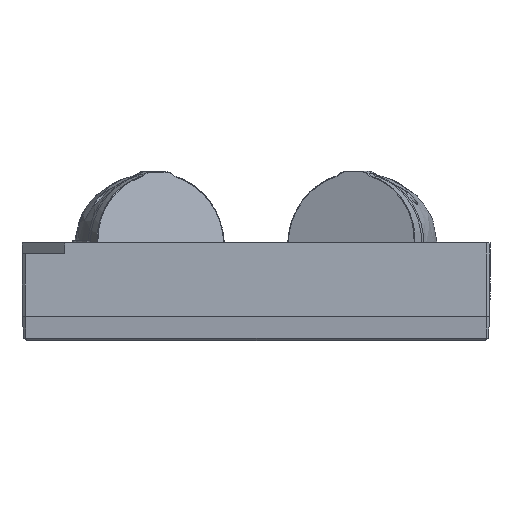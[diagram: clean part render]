
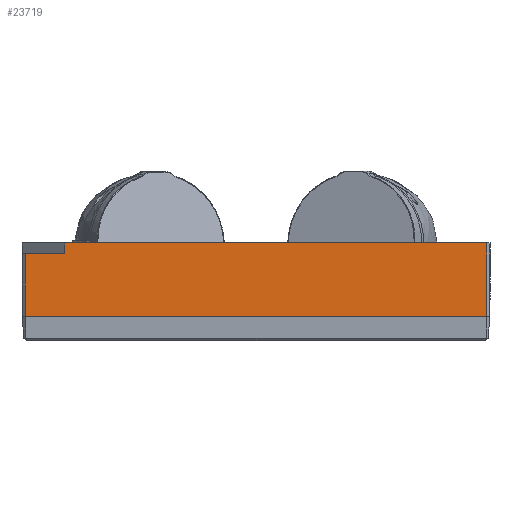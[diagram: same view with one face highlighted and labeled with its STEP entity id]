
A CAD part, front view. The second image highlights one B-rep face of the part: STEP entity #23719.
In plain terms, the highlighted planar face has unit normal (0, -1, 0).
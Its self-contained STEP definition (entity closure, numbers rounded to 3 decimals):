
#5044 = CARTESIAN_POINT ( 'NONE',  ( 0., -112.5, 0. ) ) ;
#5046 = CARTESIAN_POINT ( 'NONE',  ( -90., -112.5, 0. ) ) ;
#5050 = CARTESIAN_POINT ( 'NONE',  ( -108.5, -112.5, -34.57 ) ) ;
#5051 = CARTESIAN_POINT ( 'NONE',  ( -108.5, -112.5, -5. ) ) ;
#5052 = CARTESIAN_POINT ( 'NONE',  ( -90., -112.5, -5. ) ) ;
#5058 = CARTESIAN_POINT ( 'NONE',  ( 108.5, -112.5, 0. ) ) ;
#5060 = CARTESIAN_POINT ( 'NONE',  ( 108.5, -112.5, -34.57 ) ) ;
#16780 = LINE ( 'NONE', #16794, #27367 ) ;
#16794 = CARTESIAN_POINT ( 'NONE',  ( -108.5, -112.5, 0. ) ) ;
#16795 = DIRECTION ( 'NONE',  ( 1., 0., 0. ) ) ;
#16802 = LINE ( 'NONE', #16803, #27394 ) ;
#16803 = CARTESIAN_POINT ( 'NONE',  ( -108.5, -112.5, 0. ) ) ;
#16804 = DIRECTION ( 'NONE',  ( 0., 0., 1. ) ) ;
#16811 = LINE ( 'NONE', #16812, #27396 ) ;
#16812 = CARTESIAN_POINT ( 'NONE',  ( -108.5, -112.5, -5. ) ) ;
#16813 = DIRECTION ( 'NONE',  ( 1., 0., 0. ) ) ;
#16820 = LINE ( 'NONE', #16821, #16882 ) ;
#16821 = CARTESIAN_POINT ( 'NONE',  ( -90., -112.5, 0. ) ) ;
#16822 = DIRECTION ( 'NONE',  ( 0., 0., 1. ) ) ;
#16851 = LINE ( 'NONE', #16860, #16888 ) ;
#16860 = CARTESIAN_POINT ( 'NONE',  ( 50.616, -112.5, 0. ) ) ;
#16861 = DIRECTION ( 'NONE',  ( 1., 0., 0. ) ) ;
#16882 = VECTOR ( 'NONE', #16822, 1000. ) ;
#16888 = VECTOR ( 'NONE', #16861, 1000. ) ;
#16897 = VECTOR ( 'NONE', #17163, 1000. ) ;
#16915 = VECTOR ( 'NONE', #17603, 1000. ) ;
#16988 = AXIS2_PLACEMENT_3D ( 'NONE', #19317, #19323, #19324 ) ;
#17161 = LINE ( 'NONE', #17162, #16897 ) ;
#17162 = CARTESIAN_POINT ( 'NONE',  ( 108.5, -112.5, 0. ) ) ;
#17163 = DIRECTION ( 'NONE',  ( 0., 0., -1. ) ) ;
#17589 = LINE ( 'NONE', #17601, #16915 ) ;
#17601 = CARTESIAN_POINT ( 'NONE',  ( 154., -112.5, -34.57 ) ) ;
#17603 = DIRECTION ( 'NONE',  ( 1., 0., 0. ) ) ;
#19315 = PLANE ( 'NONE',  #16988 ) ;
#19317 = CARTESIAN_POINT ( 'NONE',  ( -108.5, -112.5, 0. ) ) ;
#19321 = FACE_OUTER_BOUND ( 'NONE', #20037, .T. ) ;
#19323 = DIRECTION ( 'NONE',  ( 0., 1., 0. ) ) ;
#19324 = DIRECTION ( 'NONE',  ( 0., 0., 1. ) ) ;
#20037 = EDGE_LOOP ( 'NONE', ( #23453, #23454, #23455, #23456, #23457, #23458, #23459 ) ) ;
#21735 = VERTEX_POINT ( 'NONE', #5044 ) ;
#21737 = VERTEX_POINT ( 'NONE', #5046 ) ;
#21741 = VERTEX_POINT ( 'NONE', #5050 ) ;
#21742 = VERTEX_POINT ( 'NONE', #5051 ) ;
#21743 = VERTEX_POINT ( 'NONE', #5052 ) ;
#21749 = VERTEX_POINT ( 'NONE', #5058 ) ;
#21751 = VERTEX_POINT ( 'NONE', #5060 ) ;
#23453 = ORIENTED_EDGE ( 'NONE', *, *, #23628, .F. ) ;
#23454 = ORIENTED_EDGE ( 'NONE', *, *, #23609, .F. ) ;
#23455 = ORIENTED_EDGE ( 'NONE', *, *, #23618, .F. ) ;
#23456 = ORIENTED_EDGE ( 'NONE', *, *, #23615, .F. ) ;
#23457 = ORIENTED_EDGE ( 'NONE', *, *, #23612, .F. ) ;
#23458 = ORIENTED_EDGE ( 'NONE', *, *, #23665, .T. ) ;
#23459 = ORIENTED_EDGE ( 'NONE', *, *, #23634, .F. ) ;
#23609 = EDGE_CURVE ( 'NONE', #21737, #21735, #16780, .T. ) ;
#23612 = EDGE_CURVE ( 'NONE', #21741, #21742, #16802, .T. ) ;
#23615 = EDGE_CURVE ( 'NONE', #21742, #21743, #16811, .T. ) ;
#23618 = EDGE_CURVE ( 'NONE', #21743, #21737, #16820, .T. ) ;
#23628 = EDGE_CURVE ( 'NONE', #21735, #21749, #16851, .T. ) ;
#23634 = EDGE_CURVE ( 'NONE', #21749, #21751, #17161, .T. ) ;
#23665 = EDGE_CURVE ( 'NONE', #21741, #21751, #17589, .T. ) ;
#23719 = ADVANCED_FACE ( 'NONE', ( #19321 ), #19315, .F. ) ;
#27367 = VECTOR ( 'NONE', #16795, 1000. ) ;
#27394 = VECTOR ( 'NONE', #16804, 1000. ) ;
#27396 = VECTOR ( 'NONE', #16813, 1000. ) ;
